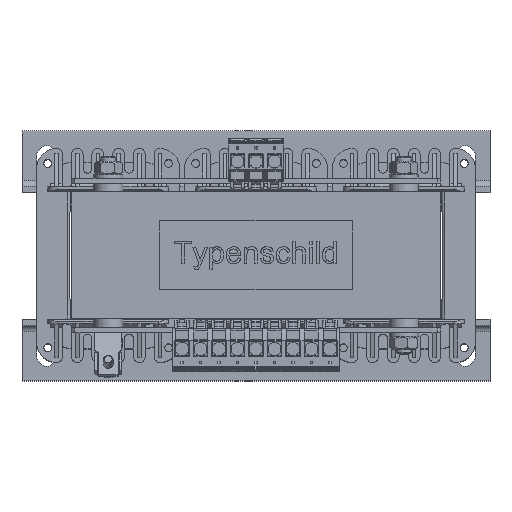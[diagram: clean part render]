
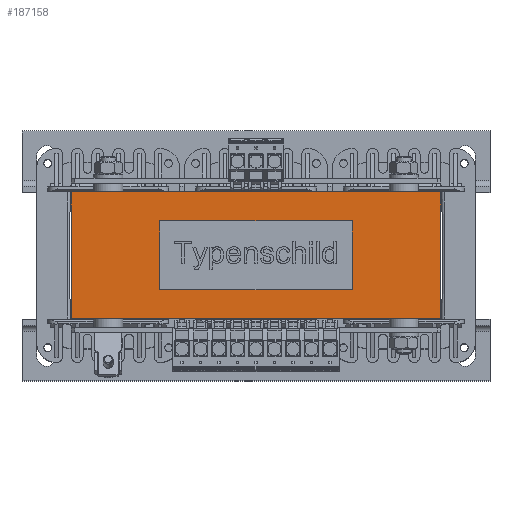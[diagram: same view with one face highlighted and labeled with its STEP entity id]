
A CAD part, top view. The second image highlights one B-rep face of the part: STEP entity #187158.
In plain terms, the highlighted planar face has unit normal (0, 0, 1).
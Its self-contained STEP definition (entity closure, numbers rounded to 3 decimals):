
#3684=FACE_BOUND('',#20096,.T.);
#10289=FACE_OUTER_BOUND('',#20095,.T.);
#20095=EDGE_LOOP('',(#147423,#147424,#147425,#147426));
#20096=EDGE_LOOP('',(#147427,#147428,#147429,#147430));
#40523=LINE('',#293681,#61113);
#40526=LINE('',#293686,#61116);
#40528=LINE('',#293690,#61118);
#40529=LINE('',#293692,#61119);
#42133=LINE('',#300564,#62723);
#42186=LINE('',#300697,#62776);
#42206=LINE('',#300739,#62796);
#42208=LINE('',#300743,#62798);
#61113=VECTOR('',#231792,10.);
#61116=VECTOR('',#231797,10.);
#61118=VECTOR('',#231801,10.);
#61119=VECTOR('',#231804,10.);
#62723=VECTOR('',#236304,10.);
#62776=VECTOR('',#236423,10.);
#62796=VECTOR('',#236467,10.);
#62798=VECTOR('',#236473,10.);
#79194=VERTEX_POINT('',#293678);
#79195=VERTEX_POINT('',#293680);
#79196=VERTEX_POINT('',#293684);
#79197=VERTEX_POINT('',#293688);
#80610=VERTEX_POINT('',#300561);
#80611=VERTEX_POINT('',#300563);
#80657=VERTEX_POINT('',#300694);
#80658=VERTEX_POINT('',#300696);
#101297=EDGE_CURVE('',#79195,#79194,#40523,.T.);
#101300=EDGE_CURVE('',#79194,#79196,#40526,.T.);
#101302=EDGE_CURVE('',#79196,#79197,#40528,.T.);
#101303=EDGE_CURVE('',#79197,#79195,#40529,.T.);
#103637=EDGE_CURVE('',#80611,#80610,#42133,.T.);
#103703=EDGE_CURVE('',#80658,#80657,#42186,.T.);
#103725=EDGE_CURVE('',#80657,#80611,#42206,.T.);
#103727=EDGE_CURVE('',#80610,#80658,#42208,.T.);
#147423=ORIENTED_EDGE('',*,*,#103703,.T.);
#147424=ORIENTED_EDGE('',*,*,#103725,.T.);
#147425=ORIENTED_EDGE('',*,*,#103637,.T.);
#147426=ORIENTED_EDGE('',*,*,#103727,.T.);
#147427=ORIENTED_EDGE('',*,*,#101297,.T.);
#147428=ORIENTED_EDGE('',*,*,#101300,.T.);
#147429=ORIENTED_EDGE('',*,*,#101302,.T.);
#147430=ORIENTED_EDGE('',*,*,#101303,.T.);
#168812=PLANE('',#199527);
#187158=ADVANCED_FACE('',(#10289,#3684),#168812,.T.);
#199527=AXIS2_PLACEMENT_3D('',#300744,#236474,#236475);
#231792=DIRECTION('',(0.,1.,0.));
#231797=DIRECTION('',(1.,0.,0.));
#231801=DIRECTION('',(0.,-1.,0.));
#231804=DIRECTION('',(-1.,0.,0.));
#236304=DIRECTION('',(-1.,0.,0.));
#236423=DIRECTION('',(1.,0.,0.));
#236467=DIRECTION('',(0.,1.,0.));
#236473=DIRECTION('',(0.,-1.,0.));
#236474=DIRECTION('center_axis',(0.,0.,1.));
#236475=DIRECTION('ref_axis',(-1.,0.,0.));
#293678=CARTESIAN_POINT('',(-39.,14.,75.));
#293680=CARTESIAN_POINT('',(-39.,-14.,75.));
#293681=CARTESIAN_POINT('',(-39.,-7.,75.));
#293684=CARTESIAN_POINT('',(39.,14.,75.));
#293686=CARTESIAN_POINT('',(-57.,14.,75.));
#293688=CARTESIAN_POINT('',(39.,-14.,75.));
#293690=CARTESIAN_POINT('',(39.,7.,75.));
#293692=CARTESIAN_POINT('',(-18.,-14.,75.));
#300561=CARTESIAN_POINT('',(-75.,25.75,75.));
#300563=CARTESIAN_POINT('',(75.,25.75,75.));
#300564=CARTESIAN_POINT('',(-75.,25.75,75.));
#300694=CARTESIAN_POINT('',(75.,-25.75,75.));
#300696=CARTESIAN_POINT('',(-75.,-25.75,75.));
#300697=CARTESIAN_POINT('',(-75.,-25.75,75.));
#300739=CARTESIAN_POINT('',(75.,0.,75.));
#300743=CARTESIAN_POINT('',(-75.,0.,75.));
#300744=CARTESIAN_POINT('Origin',(-75.,0.,75.));
